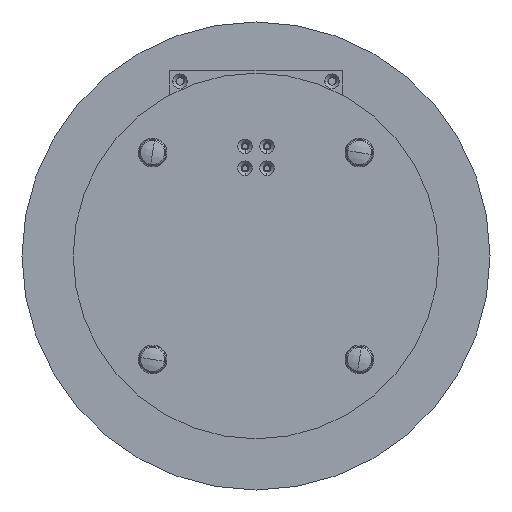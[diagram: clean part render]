
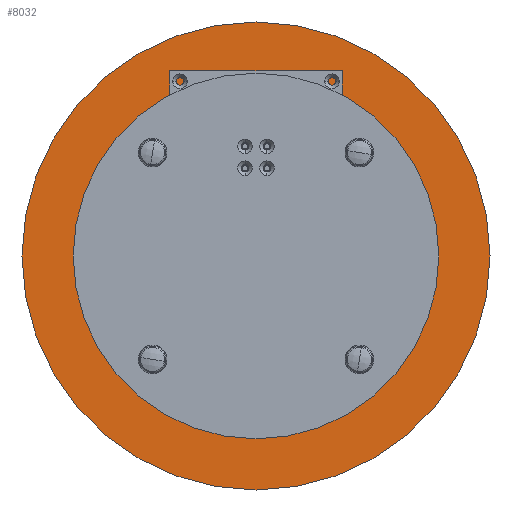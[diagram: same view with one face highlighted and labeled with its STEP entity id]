
A CAD part, front view. The second image highlights one B-rep face of the part: STEP entity #8032.
In plain terms, the highlighted planar face has unit normal (0, -1, 0).
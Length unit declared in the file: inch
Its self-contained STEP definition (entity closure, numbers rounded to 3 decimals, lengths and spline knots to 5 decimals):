
#345 = CARTESIAN_POINT ( 'NONE',  ( 0., 0., 0. ) ) ;
#464 = DIRECTION ( 'NONE',  ( 0., 1., 0. ) ) ;
#994 = EDGE_CURVE ( 'NONE', #6531, #7341, #7282, .T. ) ;
#2031 = DIRECTION ( 'NONE',  ( 0., 0., 1. ) ) ;
#2796 = DIRECTION ( 'NONE',  ( 0., 1., 0. ) ) ;
#2865 = FACE_OUTER_BOUND ( 'NONE', #6684, .T. ) ;
#3793 = DIRECTION ( 'NONE',  ( 0., 0., 1. ) ) ;
#4039 = DIRECTION ( 'NONE',  ( 0., 0., 1. ) ) ;
#4854 = CARTESIAN_POINT ( 'NONE',  ( 0., 0., -8. ) ) ;
#4905 = CARTESIAN_POINT ( 'NONE',  ( 0., 0., 0. ) ) ;
#6490 = DIRECTION ( 'NONE',  ( 0., 1., 0. ) ) ;
#6531 = VERTEX_POINT ( 'NONE', #8927 ) ;
#6537 = AXIS2_PLACEMENT_3D ( 'NONE', #10025, #2796, #2031 ) ;
#6684 = EDGE_LOOP ( 'NONE', ( #8107, #8672 ) ) ;
#7282 = CIRCLE ( 'NONE', #6537, 8. ) ;
#7341 = VERTEX_POINT ( 'NONE', #4854 ) ;
#7934 = CIRCLE ( 'NONE', #9408, 8. ) ;
#8032 = ADVANCED_FACE ( 'NONE', ( #2865 ), #8371, .F. ) ;
#8107 = ORIENTED_EDGE ( 'NONE', *, *, #9938, .F. ) ;
#8371 = PLANE ( 'NONE',  #9712 ) ;
#8672 = ORIENTED_EDGE ( 'NONE', *, *, #994, .F. ) ;
#8927 = CARTESIAN_POINT ( 'NONE',  ( 0., 0., 8. ) ) ;
#9408 = AXIS2_PLACEMENT_3D ( 'NONE', #4905, #464, #4039 ) ;
#9712 = AXIS2_PLACEMENT_3D ( 'NONE', #345, #6490, #3793 ) ;
#9938 = EDGE_CURVE ( 'NONE', #7341, #6531, #7934, .T. ) ;
#10025 = CARTESIAN_POINT ( 'NONE',  ( 0., 0., 0. ) ) ;
